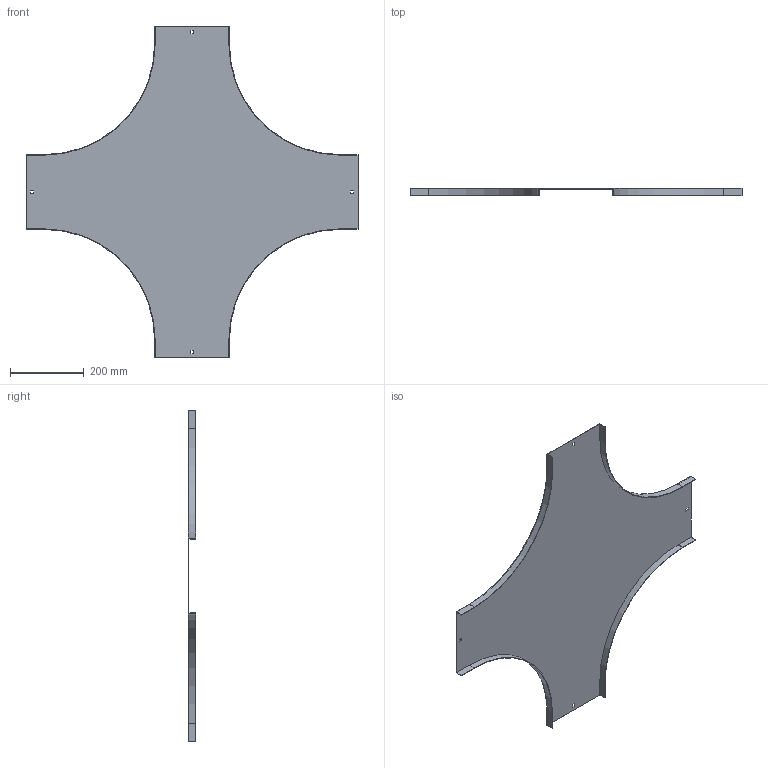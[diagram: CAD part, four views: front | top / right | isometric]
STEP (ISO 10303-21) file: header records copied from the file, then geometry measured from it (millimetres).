
FILE_DESCRIPTION (( 'STEP AP214' ), '1' );
FILE_NAME ('B2_17N3R200.step', '2025-02-21T12:08:39', ( '' ), ( '' ), 'SwSTEP 2.0', 'SolidWorks 2023', '' );
FILE_SCHEMA (( 'AUTOMOTIVE_DESIGN' ));
Length unit declared in the file: millimetre
Products named in the file (1): B2_17N3R200
Bounding box: 900 x 20 x 900 mm (x, y, z)
Volume: 663941.3 mm3; surface area: 890294.3 mm2
Topology: 1 solids, 1 shells, 50 faces, 144 edges, 96 vertices
Faces by surface type: plane 42, cylinder 8
Entity records: 1663 total; most frequent: CARTESIAN_POINT 291, ORIENTED_EDGE 288, DIRECTION 262, EDGE_CURVE 144, VECTOR 128, LINE 128, VERTEX_POINT 96, AXIS2_PLACEMENT_3D 67
